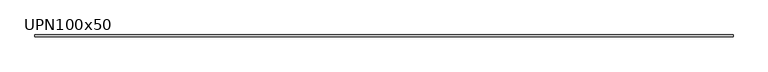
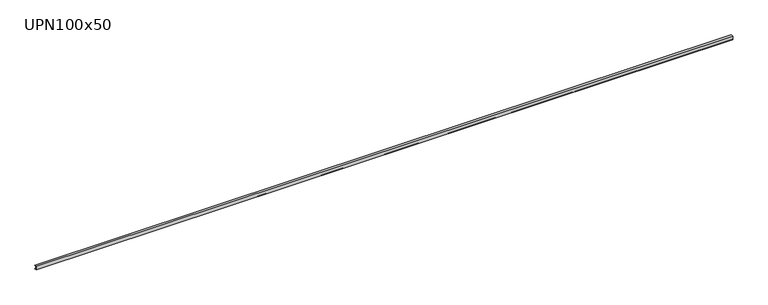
"""IFC4 building model written with IfcOpenShell, lengths in millimetres: beam geometry, M_MC Shapes : UPN100x50."""

from ifc_helpers import new_model, si_unit, point, frame, frame_2d, origin, place, context, project, spatial, polyline, circle_curve, trimmed, segment, composite_curve, outline, extrude, source, transform, mapped, element, save


def upn100x50_5791aac8(model_context):
    return source(origin(), model_context, "Body", "SweptSolid", [
        extrude(outline(composite_curve([segment(polyline([(-10.9, 50.0), (39.1, 50.0), (39.1, 49.0253247)]), True, "CONTINUOUS"), segment(trimmed(circle_curve(frame_2d((35.15, 49.0253247)), 3.95), [point((39.1, 49.0253247))], [point((35.7993773, 45.1290689))], False, "CARTESIAN"), True, "CONTINUOUS"), segment(polyline([(35.7993773, 45.1290689), (0.2512455, 39.2043685)]), True, "CONTINUOUS"), segment(trimmed(circle_curve(frame_2d((1.55, 31.4118569)), 7.9), [point((0.2512455, 39.2043685))], [point((-6.35, 31.4118569))], True, "CARTESIAN"), True, "CONTINUOUS"), segment(polyline([(-6.35, 31.4118569), (-6.35, -31.4118569)]), True, "CONTINUOUS"), segment(trimmed(circle_curve(frame_2d((1.55, -31.4118569)), 7.9), [point((-6.35, -31.4118569))], [point((0.2512455, -39.2043685))], True, "CARTESIAN"), True, "CONTINUOUS"), segment(polyline([(0.2512455, -39.2043685), (35.7993773, -45.1290689)]), True, "CONTINUOUS"), segment(trimmed(circle_curve(frame_2d((35.15, -49.0253247)), 3.95), [point((35.7993773, -45.1290689))], [point((39.1, -49.0253247))], False, "CARTESIAN"), True, "CONTINUOUS"), segment(polyline([(39.1, -49.0253247), (39.1, -50.0), (-10.9, -50.0), (-10.9, 50.0)]), True, "CONTINUOUS")], self_intersect=False)), frame((-9049.95, 0.0, 0.0), z_axis=(1.0, 0.0, 0.0), x_axis=(0.0, 1.0, 0.0)), (0.0, 0.0, 1.0), 18099.9),
    ])


if __name__ == "__main__":
    model = new_model("IFC4")
    model_context = context("Model", 3, world=origin())
    ifc_project = project(units=[si_unit("LENGTHUNIT", "METRE", prefix="MILLI")], contexts=[model_context])
    site = spatial("IfcSite", under=ifc_project)
    building = spatial("IfcBuilding", under=site)
    placement = place(None, origin())
    upn100x50_shape = upn100x50_5791aac8(model_context)
    element("IfcBeam", 1, ObjectType="M_MC Shapes : UPN100x50", at=placement, inside=building, context=model_context, shape_type="MappedRepresentation", body=[
        mapped(upn100x50_shape, transform((0.0, 0.0, 0.0), x_axis=(1.0, 0.0, 0.0), y_axis=(0.0, 1.0, 0.0), z_axis=(0.0, 0.0, 1.0))),
    ])
    save(model, "model.ifc")
